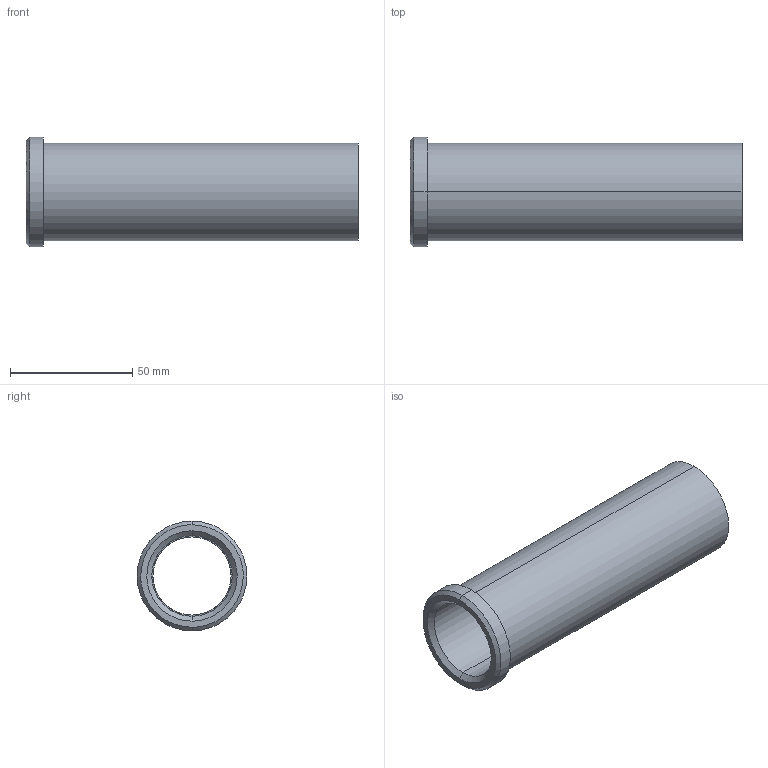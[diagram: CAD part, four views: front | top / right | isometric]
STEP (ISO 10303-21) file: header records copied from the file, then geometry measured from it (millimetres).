
FILE_DESCRIPTION(('CATIA V5 STEP Exchange'),'2;1');
FILE_NAME('C:\Users\Utente\Desktop\IO LAVORO\3D X SITO CF\X SITO\PLASTICA\353\353-32X136.stp','2021-05-12T18:49:33+00:00',('none'),('none'),'CATIA Version 5 Release 20 GA (IN-10)','CATIA V5 STEP AP203','none');
FILE_SCHEMA(('CONFIG_CONTROL_DESIGN'));
Length unit declared in the file: millimetre
Products named in the file (1): 353-32X136
Bounding box: 136 x 45 x 45 mm (x, y, z)
Volume: 59725.9 mm3; surface area: 32343.1 mm2
Topology: 1 solids, 1 shells, 18 faces, 58 edges, 44 vertices
Faces by surface type: cylinder 8, plane 4, cone 4, torus 2
Entity records: 840 total; most frequent: CARTESIAN_POINT 289, ORIENTED_EDGE 116, DIRECTION 82, EDGE_CURVE 58, AXIS2_PLACEMENT_3D 53, VERTEX_POINT 44, CIRCLE 34, EDGE_LOOP 22
